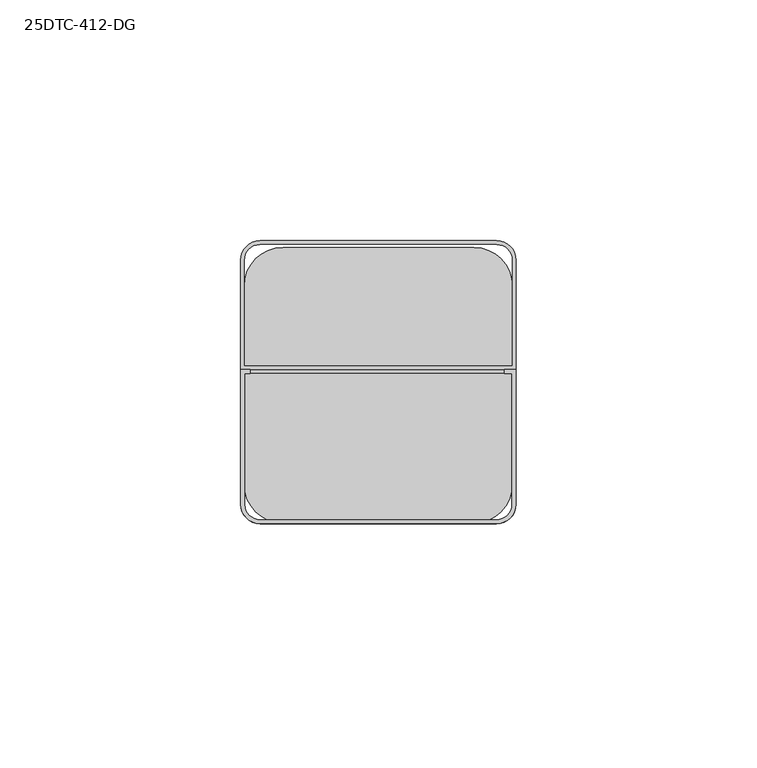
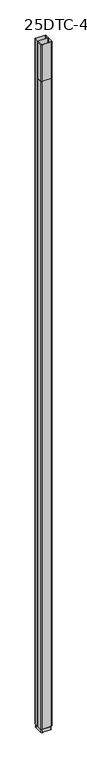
"""IFC4 building model written with IfcOpenShell, lengths in millimetres: proxy geometry, Vertical_Drop_Poles-Wiremold-Blank_Steel_Pole : 25DTC-412-DG."""

import ifcopenshell
import ifcopenshell.guid

model = None  # the IFC model being written
_history = None  # IfcOwnerHistory: only IFC2X3 demands one
_inside = {}  # id of a spatial element -> (the spatial element, [elements in it])
_under = {}  # id of a project, library or spatial element -> (it, [spatial elements below it])
_declared = {}  # id of a project -> (the project, [libraries it declares])
_typed = {}  # id of a type object -> (the type object, [elements of that type])
_made_of = {}  # id of a material, layer set ... -> (it, [elements and type objects made of it])


def new_model(schema):
    """Start an empty IFC model of exactly this schema.

    Asked for "IFC4X3", IfcOpenShell would pick the latest addendum, in which some entities
    have other attributes; the version numbers below select the first issue.
    IFC2X3 requires an IfcOwnerHistory on every rooted entity: one is made here for all.
    """
    global model, _history
    if schema == "IFC4X3":
        model = ifcopenshell.file(schema_version=(4, 3, 0, 0))
    else:
        model = ifcopenshell.file(schema=schema)
    _inside.clear()
    _under.clear()
    _declared.clear()
    _typed.clear()
    _made_of.clear()
    _history = None
    if model.schema == "IFC2X3":
        org = make("IfcOrganization", Name="unknown")
        user = make(
            "IfcPersonAndOrganization",
            ThePerson=make("IfcPerson", FamilyName="unknown"),
            TheOrganization=org,
        )
        app = make(
            "IfcApplication",
            ApplicationDeveloper=org,
            Version="unknown",
            ApplicationFullName="unknown",
            ApplicationIdentifier="unknown",
        )
        _history = make(
            "IfcOwnerHistory",
            OwningUser=user,
            OwningApplication=app,
            ChangeAction="ADDED",
            CreationDate=0,
        )
    return model


def make(cls, **values):
    """One entity of the class cls with the attributes given. An attribute that is None is left unset."""
    return model.create_entity(
        cls, **{name: value for name, value in values.items() if value is not None}
    )


def rooted(cls, **values):
    """An entity with a GlobalId (a new one), such as an element, a storey or a relation."""
    return make(cls, GlobalId=ifcopenshell.guid.new(), OwnerHistory=_history, **values)


def si_unit(unit_type, name, prefix=None):
    """IfcSIUnit, for example si_unit("LENGTHUNIT", "METRE", prefix="MILLI")."""
    return make("IfcSIUnit", UnitType=unit_type, Prefix=prefix, Name=name)


def assignment(units):
    """IfcUnitAssignment: the units of a project."""
    return None if units is None else make("IfcUnitAssignment", Units=units)


def point(xyz):
    """IfcCartesianPoint."""
    return None if xyz is None else make("IfcCartesianPoint", Coordinates=xyz)


def direction(xyz):
    """IfcDirection."""
    return None if xyz is None else make("IfcDirection", DirectionRatios=xyz)


def frame(location, z_axis=None, x_axis=None):
    """IfcAxis2Placement3D, a coordinate frame: its origin and axes. An axis left out is left unset."""
    return make(
        "IfcAxis2Placement3D",
        Location=point(location),
        Axis=direction(z_axis),
        RefDirection=direction(x_axis),
    )


def frame_2d(location, x_axis=None):
    """IfcAxis2Placement2D, a coordinate frame in the plane: its origin and x axis."""
    return make(
        "IfcAxis2Placement2D", Location=point(location), RefDirection=direction(x_axis)
    )


def origin():
    """The frame at (0, 0, 0) with its axes left unset."""
    return frame((0.0, 0.0, 0.0))


def origin_with_axes():
    """The frame at (0, 0, 0) with the z axis (0, 0, 1) and the x axis (1, 0, 0) written out."""
    return frame((0.0, 0.0, 0.0), z_axis=(0.0, 0.0, 1.0), x_axis=(1.0, 0.0, 0.0))


def place(relative_to, where):
    """IfcLocalPlacement: puts the frame where relative to a parent placement (None: the world)."""
    return make(
        "IfcLocalPlacement", PlacementRelTo=relative_to, RelativePlacement=where
    )


def context(
    kind, dimensions, precision=None, world=None, true_north=None, identifier=None
):
    """IfcGeometricRepresentationContext, for example the 3D "Model" context."""
    return make(
        "IfcGeometricRepresentationContext",
        ContextIdentifier=identifier,
        ContextType=kind,
        CoordinateSpaceDimension=dimensions,
        Precision=precision,
        WorldCoordinateSystem=world,
        TrueNorth=true_north,
    )


def project(units=None, contexts=None):
    """IfcProject with its units and contexts."""
    return rooted(
        "IfcProject",
        Name="project",
        RepresentationContexts=contexts,
        UnitsInContext=assignment(units),
    )


def spatial(cls, under=None, at=None, **own):
    """A site, building, storey or space (cls), placed at a placement, below another one or the project."""
    s = rooted(cls, ObjectPlacement=at, **own)
    if under is not None:
        _under.setdefault(under.id(), (under, []))[1].append(s)
    return s


def polyline(points):
    """IfcPolyline through the points."""
    return make("IfcPolyline", Points=[point(p) for p in points])


def circle_curve(where, radius):
    """IfcCircle in the frame where."""
    return make("IfcCircle", Position=where, Radius=radius)


def trimmed(basis, trim1, trim2, sense, master):
    """IfcTrimmedCurve: the piece of a basis curve between two trims."""
    return make(
        "IfcTrimmedCurve",
        BasisCurve=basis,
        Trim1=trim1,
        Trim2=trim2,
        SenseAgreement=sense,
        MasterRepresentation=master,
    )


def segment(curve, same_sense, transition):
    """IfcCompositeCurveSegment."""
    return make(
        "IfcCompositeCurveSegment",
        Transition=transition,
        SameSense=same_sense,
        ParentCurve=curve,
    )


def composite_curve(segments, self_intersect=None):
    """IfcCompositeCurve: segments joined end to end."""
    return make("IfcCompositeCurve", Segments=segments, SelfIntersect=self_intersect)


def outline(outer, holes=None, kind="AREA"):
    """IfcArbitraryClosedProfileDef: a profile drawn as a closed curve; with holes, ...WithVoids."""
    if holes is None:
        return make("IfcArbitraryClosedProfileDef", ProfileType=kind, OuterCurve=outer)
    return make(
        "IfcArbitraryProfileDefWithVoids",
        ProfileType=kind,
        OuterCurve=outer,
        InnerCurves=holes,
    )


def extrude(swept, where, along, depth):
    """IfcExtrudedAreaSolid: the profile swept, set in the frame where, extruded along a direction by depth."""
    return make(
        "IfcExtrudedAreaSolid",
        SweptArea=swept,
        Position=where,
        ExtrudedDirection=direction(along),
        Depth=depth,
    )


def shape(context_of_items, identifier, shape_type, items):
    """IfcShapeRepresentation: the items that make up one representation, for example the "Body"."""
    return make(
        "IfcShapeRepresentation",
        ContextOfItems=context_of_items,
        RepresentationIdentifier=identifier,
        RepresentationType=shape_type,
        Items=items,
    )


def source(mapping_origin, context_of_items, identifier, shape_type, items):
    """IfcRepresentationMap: a shape defined once, which mapped items show again and again."""
    return make(
        "IfcRepresentationMap",
        MappingOrigin=mapping_origin,
        MappedRepresentation=shape(context_of_items, identifier, shape_type, items),
    )


def transform(
    local_origin,
    x_axis=None,
    y_axis=None,
    z_axis=None,
    scale=None,
    scale2=None,
    scale3=None,
    uniform=True,
):
    """IfcCartesianTransformationOperator3D, or its non-uniform kind. x_axis, y_axis, z_axis: its Axis1, 2, 3."""
    if uniform:
        return make(
            "IfcCartesianTransformationOperator3D",
            Axis1=direction(x_axis),
            Axis2=direction(y_axis),
            LocalOrigin=point(local_origin),
            Scale=scale,
            Axis3=direction(z_axis),
        )
    return make(
        "IfcCartesianTransformationOperator3DnonUniform",
        Axis1=direction(x_axis),
        Axis2=direction(y_axis),
        LocalOrigin=point(local_origin),
        Scale=scale,
        Axis3=direction(z_axis),
        Scale2=scale2,
        Scale3=scale3,
    )


def mapped(mapping_source, mapping_target):
    """IfcMappedItem: shows the shape of a source again, moved by a transform."""
    return make(
        "IfcMappedItem", MappingSource=mapping_source, MappingTarget=mapping_target
    )


def made_of(thing, what):
    """Note that an element or type object is made of a material, layer set ...; save() writes the relation."""
    if what is not None:
        _made_of.setdefault(what.id(), (what, []))[1].append(thing)
    return thing


def element(
    cls,
    number,
    at=None,
    inside=None,
    cuts=None,
    type_object=None,
    material=None,
    context=None,
    identifier="Body",
    shape_type=None,
    held_by="IfcProductDefinitionShape",
    body=None,
    shapes=None,
    **own,
):
    """One element of the class cls, such as IfcWall. Its Tag is "e" and its number.

    at: its placement. inside: the storey or other place that contains it. cuts: it is an
    opening in that element (IfcRelVoidsElement). A single representation is given by context,
    identifier, shape_type and body (its items); several are given by shapes. held_by: the class
    of the entity that holds the representations. save() writes the other relations.
    """
    e = rooted(cls, Tag="e%d" % number, ObjectPlacement=at, **own)
    if body is not None:
        shapes = [shape(context, identifier, shape_type, body)]
    if shapes is not None:
        e.Representation = make(held_by, Representations=shapes)
    if inside is not None:
        _inside.setdefault(inside.id(), (inside, []))[1].append(e)
    if cuts is not None:
        rooted(
            "IfcRelVoidsElement", RelatingBuildingElement=cuts, RelatedOpeningElement=e
        )
    if type_object is not None:
        _typed.setdefault(type_object.id(), (type_object, []))[1].append(e)
    return made_of(e, material)


def aggregate(whole, parts):
    """IfcRelAggregates: a whole, such as a stair, and the parts it consists of."""
    return rooted("IfcRelAggregates", RelatingObject=whole, RelatedObjects=parts)


def save(model, path):
    """Write the relations noted so far, then the file.

    IfcRelAggregates (storeys below a building ...), IfcRelContainedInSpatialStructure (elements
    in a storey), IfcRelDefinesByType, IfcRelAssociatesMaterial and IfcRelDeclares: one each for
    every whole, place, type object, material and project.
    """
    for whole, parts in _under.values():
        aggregate(whole, parts)
    for where, things in _inside.values():
        rooted(
            "IfcRelContainedInSpatialStructure",
            RelatedElements=things,
            RelatingStructure=where,
        )
    for kind, things in _typed.values():
        rooted("IfcRelDefinesByType", RelatedObjects=things, RelatingType=kind)
    for what, things in _made_of.values():
        rooted("IfcRelAssociatesMaterial", RelatedObjects=things, RelatingMaterial=what)
    for by, libraries in _declared.values():
        rooted("IfcRelDeclares", RelatingContext=by, RelatedDefinitions=libraries)
    model.write(path)


def proxy_25dtc_412_dg_3b4139b7(model_context):
    return source(origin(), model_context, "Body", "SweptSolid", [
        extrude(outline(composite_curve([segment(polyline([(28.575, 31.25), (28.575, 3.25)]), True, "CONTINUOUS"), segment(trimmed(circle_curve(frame_2d((24.575, 3.25)), 4.0), [point((28.575, 3.25))], [point((24.575, -0.75))], False, "CARTESIAN"), True, "CONTINUOUS"), segment(polyline([(24.575, -0.75), (-24.575, -0.75)]), True, "CONTINUOUS"), segment(trimmed(circle_curve(frame_2d((-24.575, 3.25)), 4.0), [point((-24.575, -0.75))], [point((-28.575, 3.25))], False, "CARTESIAN"), True, "CONTINUOUS"), segment(polyline([(-28.575, 3.25), (-28.575, 31.25), (-26.5875, 31.25), (-26.5875, 30.45), (-27.775, 30.45), (-27.775, 3.25)]), True, "CONTINUOUS"), segment(trimmed(circle_curve(frame_2d((-24.575, 3.25)), 3.2), [point((-27.775, 3.25))], [point((-24.575, 0.05))], True, "CARTESIAN"), True, "CONTINUOUS"), segment(polyline([(-24.575, 0.05), (24.575, 0.05)]), True, "CONTINUOUS"), segment(trimmed(circle_curve(frame_2d((24.575, 3.25)), 3.2), [point((24.575, 0.05))], [point((27.775, 3.25))], True, "CARTESIAN"), True, "CONTINUOUS"), segment(polyline([(27.775, 3.25), (27.775, 30.45), (26.1875, 30.45), (26.1875, 31.25), (28.575, 31.25)]), True, "CONTINUOUS")], self_intersect=False)), frame((0.0, 0.0, 3581.4), z_axis=(0.0, 0.0, 1.0), x_axis=(1.0, 0.0, 0.0)), (0.0, 0.0, 1.0), 203.2),
        extrude(outline(composite_curve([segment(trimmed(circle_curve(frame_2d((19.825, 49.2375)), 8.0), [point((19.825, 57.2375))], [point((27.825, 49.2375))], False, "CARTESIAN"), True, "CONTINUOUS"), segment(polyline([(27.825, 49.2375), (27.825, 8.0)]), True, "CONTINUOUS"), segment(trimmed(circle_curve(frame_2d((19.825, 8.0)), 8.0), [point((27.825, 8.0))], [point((19.825, 0.0))], False, "CARTESIAN"), True, "CONTINUOUS"), segment(polyline([(19.825, 0.0), (-19.825, 0.0)]), True, "CONTINUOUS"), segment(trimmed(circle_curve(frame_2d((-19.825, 8.0)), 8.0), [point((-19.825, 0.0))], [point((-27.825, 8.0))], False, "CARTESIAN"), True, "CONTINUOUS"), segment(polyline([(-27.825, 8.0), (-27.825, 49.2375)]), True, "CONTINUOUS"), segment(trimmed(circle_curve(frame_2d((-19.825, 49.2375)), 8.0), [point((-27.825, 49.2375))], [point((-19.825, 57.2375))], False, "CARTESIAN"), True, "CONTINUOUS"), segment(polyline([(-19.825, 57.2375), (19.825, 57.2375)]), True, "CONTINUOUS")], self_intersect=False)), frame((0.0, 0.0, -19.0), z_axis=(0.0, 0.0, 1.0), x_axis=(1.0, 0.0, 0.0)), (0.0, 0.0, 1.0), 19.0),
        extrude(outline(composite_curve([segment(trimmed(circle_curve(frame_2d((24.575, 53.9875)), 4.0), [point((24.575, 57.9875))], [point((28.575, 53.9875))], False, "CARTESIAN"), True, "CONTINUOUS"), segment(polyline([(28.575, 53.9875), (28.575, 31.25), (-28.575, 31.25), (-28.575, 53.9875)]), True, "CONTINUOUS"), segment(trimmed(circle_curve(frame_2d((-24.575, 53.9875)), 4.0), [point((-28.575, 53.9875))], [point((-24.575, 57.9875))], False, "CARTESIAN"), True, "CONTINUOUS"), segment(polyline([(-24.575, 57.9875), (24.575, 57.9875)]), True, "CONTINUOUS")], self_intersect=False), holes=[composite_curve([segment(polyline([(27.775, 32.05), (27.775, 53.9875)]), True, "CONTINUOUS"), segment(trimmed(circle_curve(frame_2d((24.575, 53.9875)), 3.2), [point((27.775, 53.9875))], [point((24.575, 57.1875))], True, "CARTESIAN"), True, "CONTINUOUS"), segment(polyline([(24.575, 57.1875), (-24.575, 57.1875)]), True, "CONTINUOUS"), segment(trimmed(circle_curve(frame_2d((-24.575, 53.9875)), 3.2), [point((-24.575, 57.1875))], [point((-27.775, 53.9875))], True, "CARTESIAN"), True, "CONTINUOUS"), segment(polyline([(-27.775, 53.9875), (-27.775, 32.05), (27.775, 32.05)]), True, "CONTINUOUS")], self_intersect=False)]), origin_with_axes(), (0.0, 0.0, 1.0), 3784.6),
        extrude(outline(composite_curve([segment(polyline([(28.575, 31.25), (28.575, 3.25)]), True, "CONTINUOUS"), segment(trimmed(circle_curve(frame_2d((24.575, 3.25)), 4.0), [point((28.575, 3.25))], [point((24.575, -0.75))], False, "CARTESIAN"), True, "CONTINUOUS"), segment(polyline([(24.575, -0.75), (-24.575, -0.75)]), True, "CONTINUOUS"), segment(trimmed(circle_curve(frame_2d((-24.575, 3.25)), 4.0), [point((-24.575, -0.75))], [point((-28.575, 3.25))], False, "CARTESIAN"), True, "CONTINUOUS"), segment(polyline([(-28.575, 3.25), (-28.575, 31.25), (28.575, 31.25)]), True, "CONTINUOUS")], self_intersect=False), holes=[composite_curve([segment(polyline([(-27.775, 30.45), (-27.775, 3.25)]), True, "CONTINUOUS"), segment(trimmed(circle_curve(frame_2d((-24.575, 3.25)), 3.2), [point((-27.775, 3.25))], [point((-24.575, 0.05))], True, "CARTESIAN"), True, "CONTINUOUS"), segment(polyline([(-24.575, 0.05), (24.575, 0.05)]), True, "CONTINUOUS"), segment(trimmed(circle_curve(frame_2d((24.575, 3.25)), 3.2), [point((24.575, 0.05))], [point((27.775, 3.25))], True, "CARTESIAN"), True, "CONTINUOUS"), segment(polyline([(27.775, 3.25), (27.775, 30.45), (-27.775, 30.45)]), True, "CONTINUOUS")], self_intersect=False)]), origin_with_axes(), (0.0, 0.0, 1.0), 3581.4),
    ])


if __name__ == "__main__":
    model = new_model("IFC4")
    model_context = context("Model", 3, world=origin())
    ifc_project = project(units=[si_unit("LENGTHUNIT", "METRE", prefix="MILLI")], contexts=[model_context])
    site = spatial("IfcSite", under=ifc_project)
    building = spatial("IfcBuilding", under=site)
    placement = place(None, origin())
    proxy_25dtc_412_dg_shape = proxy_25dtc_412_dg_3b4139b7(model_context)
    element("IfcBuildingElementProxy", 1, Name="Vertical_Drop_Poles-Wiremold-Blank_Steel_Pole : 25DTC-412-DG", ObjectType="Vertical_Drop_Poles-Wiremold-Blank_Steel_Pole : 25DTC-412-DG", at=placement, inside=building, context=model_context, shape_type="MappedRepresentation", body=[
        mapped(proxy_25dtc_412_dg_shape, transform((0.0, 0.0, 0.0), x_axis=(1.0, 0.0, 0.0), y_axis=(0.0, 1.0, 0.0), z_axis=(0.0, 0.0, 1.0))),
    ])
    save(model, "model.ifc")
